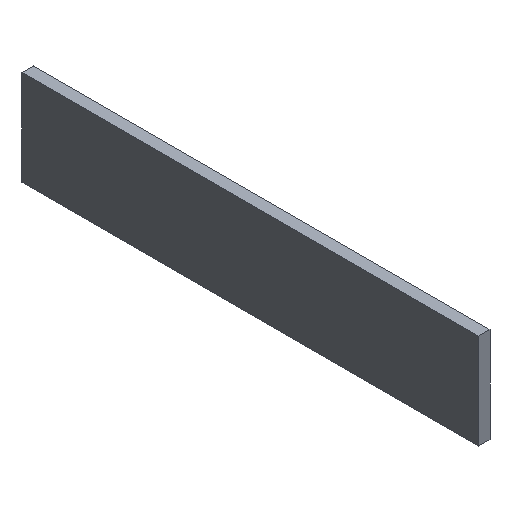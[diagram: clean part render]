
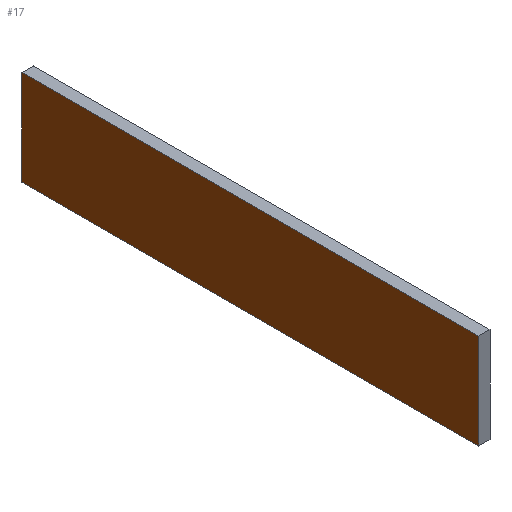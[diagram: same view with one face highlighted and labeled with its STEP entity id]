
A CAD part, isometric view. The second image highlights one B-rep face of the part: STEP entity #17.
In plain terms, the highlighted planar face has unit normal (-1, 0, 0).
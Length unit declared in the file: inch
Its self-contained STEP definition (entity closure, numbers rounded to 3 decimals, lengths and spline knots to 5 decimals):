
#17=ADVANCED_FACE('',(#23),#91,.T.);
#23=FACE_OUTER_BOUND('',#29,.T.);
#29=EDGE_LOOP('',(#44,#45,#46,#47));
#44=ORIENTED_EDGE('',*,*,#59,.T.);
#45=ORIENTED_EDGE('',*,*,#64,.T.);
#46=ORIENTED_EDGE('',*,*,#63,.F.);
#47=ORIENTED_EDGE('',*,*,#67,.F.);
#59=EDGE_CURVE('',#83,#80,#71,.T.);
#63=EDGE_CURVE('',#87,#84,#75,.T.);
#64=EDGE_CURVE('',#80,#84,#76,.T.);
#67=EDGE_CURVE('',#83,#87,#79,.T.);
#71=B_SPLINE_CURVE_WITH_KNOTS('',1,(#223,#224),.UNSPECIFIED.,.F.,.F.,(2,
2),(0.,48.),.UNSPECIFIED.);
#75=B_SPLINE_CURVE_WITH_KNOTS('',1,(#231,#232),.UNSPECIFIED.,.F.,.F.,(2,
2),(0.,48.),.UNSPECIFIED.);
#76=B_SPLINE_CURVE_WITH_KNOTS('',1,(#233,#234),.UNSPECIFIED.,.F.,.F.,(2,
2),(0.,10.),.UNSPECIFIED.);
#79=B_SPLINE_CURVE_WITH_KNOTS('',1,(#239,#240),.UNSPECIFIED.,.F.,.F.,(2,
2),(0.,10.),.UNSPECIFIED.);
#80=VERTEX_POINT('',#209);
#83=VERTEX_POINT('',#212);
#84=VERTEX_POINT('',#213);
#87=VERTEX_POINT('',#216);
#91=PLANE('',#188);
#188=AXIS2_PLACEMENT_3D('',#206,#197,$);
#197=DIRECTION('',(-1.,0.,0.));
#206=CARTESIAN_POINT('',(0.,48.,0.));
#209=CARTESIAN_POINT('',(0.,0.,0.));
#212=CARTESIAN_POINT('',(0.,48.,0.));
#213=CARTESIAN_POINT('',(0.,0.,10.));
#216=CARTESIAN_POINT('',(0.,48.,10.));
#223=CARTESIAN_POINT('',(0.,48.,0.));
#224=CARTESIAN_POINT('',(0.,0.,0.));
#231=CARTESIAN_POINT('',(0.,48.,10.));
#232=CARTESIAN_POINT('',(0.,0.,10.));
#233=CARTESIAN_POINT('',(0.,0.,0.));
#234=CARTESIAN_POINT('',(0.,0.,10.));
#239=CARTESIAN_POINT('',(0.,48.,0.));
#240=CARTESIAN_POINT('',(0.,48.,10.));
